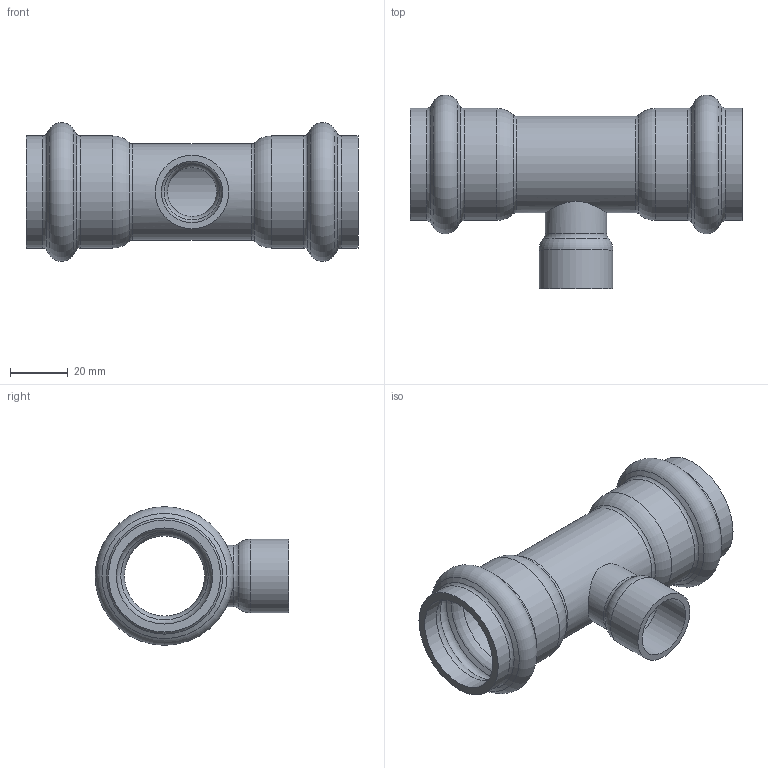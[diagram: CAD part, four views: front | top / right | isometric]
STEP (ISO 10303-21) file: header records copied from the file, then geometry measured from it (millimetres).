
FILE_DESCRIPTION(/* description */ ('VIC TEE RED. BRANCH STYLE P588 (P x P x F)','CAx-IF Rec.Pracs.---Representation and Presentation of Product Manufacturing Information (PMI)---4.0---2014-10-13'),/* implementation_level */ '2;1');
FILE_NAME(/* name */ 'C:\Users\Vjadhav\AppData\Roaming\Autodesk\ApplicationPlugins\Back Up\Victaulic_SS-Vic-Press-TP 304_Tee Threaded_Style P588 (VPxFPT)\Victaulic_SS-Vic-Press-TP 304_Tee Threaded_Style P588 (VPxFPT)_01.0x0.50 (25x15).stp',/* time_stamp */ '2020-08-12T18:49:40+05:00',/* author */ ('cgray'),/* organization */ ('Victaulic'),/* preprocessor_version */ 'ST-DEVELOPER v17.2',/* originating_system */ 'Autodesk Inventor 2019',/* authorisation */ '');
FILE_SCHEMA (('AP242_MANAGED_MODEL_BASED_3D_ENGINEERING_MIM_LF { 1 0 10303 442 1 1 4 }'));
Length unit declared in the file: inch
Products named in the file (1): P588-01.0x0.5
Bounding box: 115.32 x 67.26 x 48.16 mm (x, y, z)
Volume: 41664.2 mm3; surface area: 31836.5 mm2
Topology: 1 solids, 1 shells, 49 faces, 184 edges, 136 vertices
Faces by surface type: torus 24, cylinder 14, cone 8, plane 3
Full cylindrical faces by diameter (mm): 17.12 x1, 21.336 x2, 25.552 x1, 27.864 x1, 33.401 x5, 38.938 x4
Entity records: 2363 total; most frequent: CARTESIAN_POINT 467, DIRECTION 454, ORIENTED_EDGE 368, AXIS2_PLACEMENT_3D 215, EDGE_CURVE 184, CIRCLE 152, VERTEX_POINT 136, EDGE_LOOP 52
